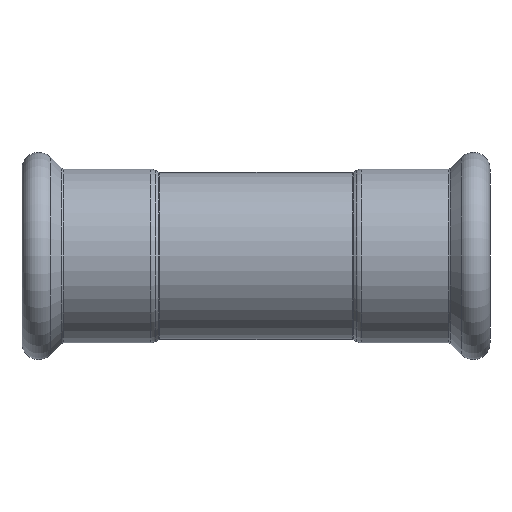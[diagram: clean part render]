
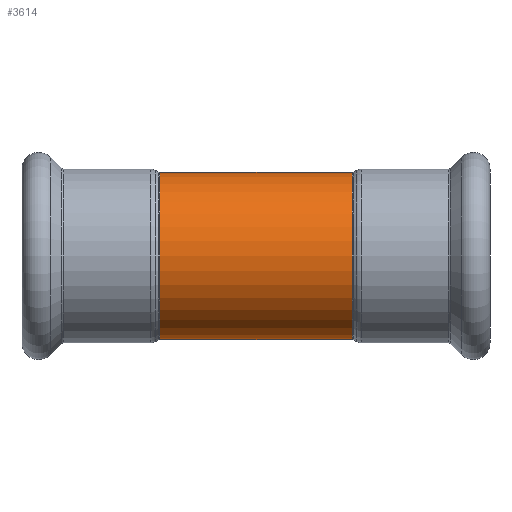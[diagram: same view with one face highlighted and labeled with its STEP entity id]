
A CAD part, front view. The second image highlights one B-rep face of the part: STEP entity #3614.
In plain terms, the highlighted cylindrical face has radius 15 mm (diameter 30 mm), a partial arc.
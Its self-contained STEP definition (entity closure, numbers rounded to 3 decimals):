
#202 = VERTEX_POINT ( 'NONE', #3516 ) ;
#428 = DIRECTION ( 'NONE',  ( -1., 0., 0. ) ) ;
#520 = DIRECTION ( 'NONE',  ( 0., 0., 1. ) ) ;
#621 = CARTESIAN_POINT ( 'NONE',  ( -17.248, 0., 0. ) ) ;
#783 = VERTEX_POINT ( 'NONE', #2841 ) ;
#1043 = CARTESIAN_POINT ( 'NONE',  ( 27.146, 0., 15. ) ) ;
#1066 = CIRCLE ( 'NONE', #4262, 15. ) ;
#1147 = VERTEX_POINT ( 'NONE', #2792 ) ;
#1189 = DIRECTION ( 'NONE',  ( -1., 0., 0. ) ) ;
#1412 = ORIENTED_EDGE ( 'NONE', *, *, #2998, .F. ) ;
#1429 = ORIENTED_EDGE ( 'NONE', *, *, #1804, .F. ) ;
#1792 = ORIENTED_EDGE ( 'NONE', *, *, #3078, .T. ) ;
#1804 = EDGE_CURVE ( 'NONE', #2027, #202, #2376, .T. ) ;
#1829 = CARTESIAN_POINT ( 'NONE',  ( 17.248, 0., 0. ) ) ;
#2017 = EDGE_CURVE ( 'NONE', #783, #202, #2472, .T. ) ;
#2027 = VERTEX_POINT ( 'NONE', #3030 ) ;
#2044 = VECTOR ( 'NONE', #1189, 1000. ) ;
#2097 = ORIENTED_EDGE ( 'NONE', *, *, #2017, .T. ) ;
#2131 = CARTESIAN_POINT ( 'NONE',  ( 27.146, 0., 0. ) ) ;
#2345 = DIRECTION ( 'NONE',  ( -1., 0., 0. ) ) ;
#2376 = CIRCLE ( 'NONE', #3429, 15. ) ;
#2472 = LINE ( 'NONE', #1043, #3157 ) ;
#2485 = DIRECTION ( 'NONE',  ( -1., 0., 0. ) ) ;
#2792 = CARTESIAN_POINT ( 'NONE',  ( 17.248, 0., -15. ) ) ;
#2806 = AXIS2_PLACEMENT_3D ( 'NONE', #2131, #3158, #3492 ) ;
#2818 = LINE ( 'NONE', #2846, #2044 ) ;
#2841 = CARTESIAN_POINT ( 'NONE',  ( 17.248, 0., 15. ) ) ;
#2846 = CARTESIAN_POINT ( 'NONE',  ( 27.146, 0., -15. ) ) ;
#2998 = EDGE_CURVE ( 'NONE', #1147, #2027, #2818, .T. ) ;
#3030 = CARTESIAN_POINT ( 'NONE',  ( -17.248, 0., -15. ) ) ;
#3078 = EDGE_CURVE ( 'NONE', #1147, #783, #1066, .T. ) ;
#3157 = VECTOR ( 'NONE', #428, 1000. ) ;
#3158 = DIRECTION ( 'NONE',  ( -1., 0., 0. ) ) ;
#3241 = FACE_OUTER_BOUND ( 'NONE', #3908, .T. ) ;
#3344 = DIRECTION ( 'NONE',  ( 0., 0., 1. ) ) ;
#3355 = CYLINDRICAL_SURFACE ( 'NONE', #2806, 15. ) ;
#3429 = AXIS2_PLACEMENT_3D ( 'NONE', #621, #2345, #3344 ) ;
#3492 = DIRECTION ( 'NONE',  ( 0., 0., 1. ) ) ;
#3516 = CARTESIAN_POINT ( 'NONE',  ( -17.248, 0., 15. ) ) ;
#3614 = ADVANCED_FACE ( 'NONE', ( #3241 ), #3355, .T. ) ;
#3908 = EDGE_LOOP ( 'NONE', ( #1412, #1792, #2097, #1429 ) ) ;
#4262 = AXIS2_PLACEMENT_3D ( 'NONE', #1829, #2485, #520 ) ;
